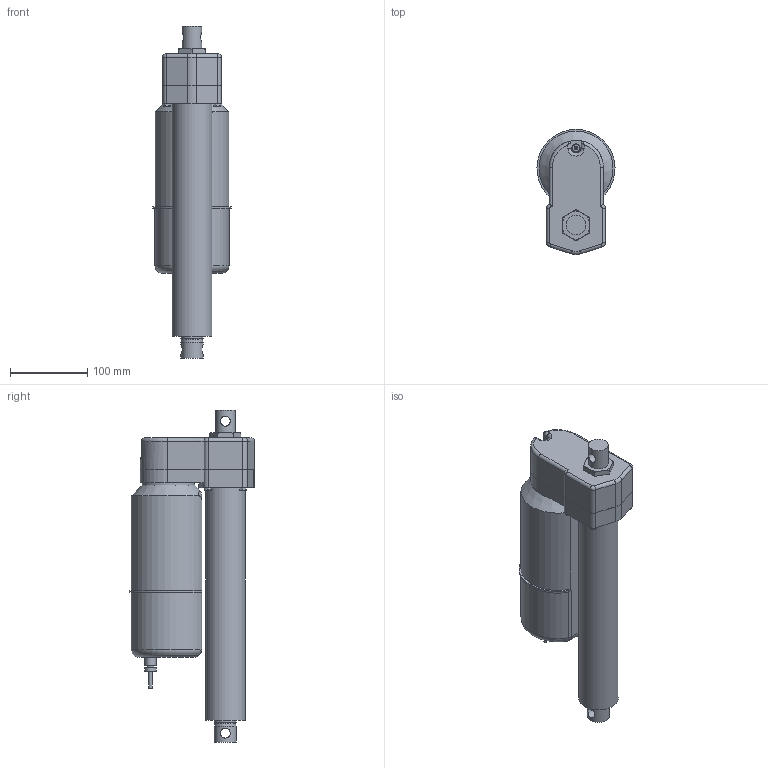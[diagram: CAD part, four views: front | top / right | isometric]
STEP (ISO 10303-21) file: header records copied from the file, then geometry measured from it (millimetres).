
FILE_DESCRIPTION (( 'STEP AP214' ), '1' );
FILE_NAME ('A42-05B5-08M0N-tollo.step', '2020-04-06T18:52:11', ( '' ), ( '' ), 'SwSTEP 2.0', 'SolidWorks 2010', '' );
FILE_SCHEMA (( 'AUTOMOTIVE_DESIGN' ));
Length unit declared in the file: millimetre
Products named in the file (7): Electrak-LA5-Motor-A42-05B5-08M0N-tollo_Electrak-LA5-Motor-A42-05B5-08M0N-tollo; Electrak-LA5-Rear-A42-05B5-08M0N-tollo_Electrak-LA5-Rear-A42-05B5-08M0N-tollo; Electrak-LA5-Tube-A42-05B5-08M0N-tollo_Electrak-LA5-Tube-A42-05B5-08M0N-tollo; Electrak-LA5-Rod-A42-05B5-08M0N-tollo_Electrak-LA5-Rod-A42-05B5-08M0N-tollo; Screw-MFX-H-M5-A42-05B5-08M0N-tollo_Screw-MFX-H-M5-A42-05B5-08M0N-tollo; Screw-M6S-M5-A42-05B5-08M0N-tollo_Screw-M6S-M5-A42-05B5-08M0N-tollo; A42-05B5-08M0N-tollo
Assembly tree (9 placements, depth 2):
  A42-05B5-08M0N-tollo
    Electrak-LA5-Rod-A42-05B5-08M0N-tollo_Electrak-LA5-Rod-A42-05B5-08M0N-tollo
    Screw-MFX-H-M5-A42-05B5-08M0N-tollo_Screw-MFX-H-M5-A42-05B5-08M0N-tollo
    Screw-M6S-M5-A42-05B5-08M0N-tollo_Screw-M6S-M5-A42-05B5-08M0N-tollo  x4
    Electrak-LA5-Tube-A42-05B5-08M0N-tollo_Electrak-LA5-Tube-A42-05B5-08M0N-tollo
    Electrak-LA5-Motor-A42-05B5-08M0N-tollo_Electrak-LA5-Motor-A42-05B5-08M0N-tollo
    Electrak-LA5-Rear-A42-05B5-08M0N-tollo_Electrak-LA5-Rear-A42-05B5-08M0N-tollo
Bounding box: 100.99 x 162.5 x 429.8 mm (x, y, z)
Volume: 2775037.1 mm3; surface area: 250457.7 mm2
Topology: 9 solids, 9 shells, 238 faces, 549 edges, 347 vertices
Faces by surface type: plane 95, cylinder 92, cone 31, torus 15, bspline 3, sphere 2
Full cylindrical faces by diameter (mm): 4 x1, 4.126 x5, 4.8 x2, 5 x13, 7.878 x4, 9.3 x1, 10 x1, 12.8 x2, 15 x2, 25.4 x1, 28.6 x4, 51.3 x1, 68 x1
Entity records: 5776 total; most frequent: CARTESIAN_POINT 1721, DIRECTION 806, ORIENTED_EDGE 666, AXIS2_PLACEMENT_3D 339, EDGE_CURVE 333, EDGE_LOOP 245, VERTEX_POINT 236, FACE_OUTER_BOUND 198
